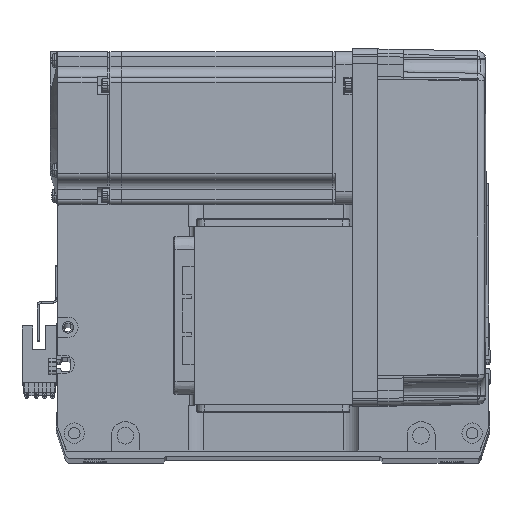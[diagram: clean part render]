
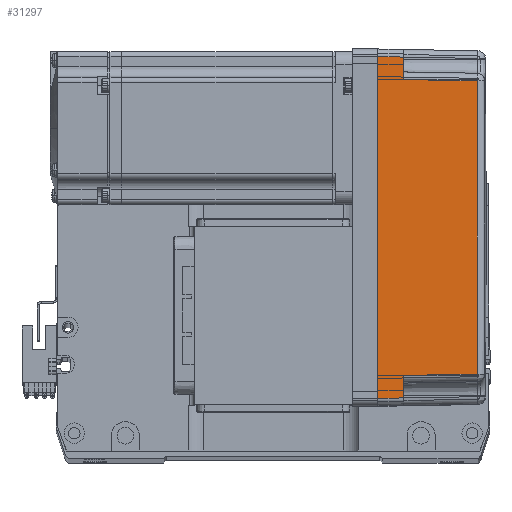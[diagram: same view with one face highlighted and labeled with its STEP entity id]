
A CAD part, top view. The second image highlights one B-rep face of the part: STEP entity #31297.
In plain terms, the highlighted planar face has unit normal (0.018, 0, 1) as drawn and (0, -1, 0.017) by its records, which use the part's own axes.
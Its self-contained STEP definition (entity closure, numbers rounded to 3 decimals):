
#11 = CARTESIAN_POINT ( 'NONE',  ( -57.495, -35.32, 38.985 ) ) ;
#273 = VERTEX_POINT ( 'NONE', #48690 ) ;
#284 = CARTESIAN_POINT ( 'NONE',  ( 58., -35.825, 10. ) ) ;
#1744 = LINE ( 'NONE', #42941, #52781 ) ;
#2312 = CARTESIAN_POINT ( 'NONE',  ( 67., -36., 0. ) ) ;
#3385 = LINE ( 'NONE', #31563, #9486 ) ;
#3584 = CARTESIAN_POINT ( 'NONE',  ( 57.495, -35.32, 38.985 ) ) ;
#5152 = CARTESIAN_POINT ( 'NONE',  ( 70., -36., 0. ) ) ;
#6297 = CARTESIAN_POINT ( 'NONE',  ( -58., -35.825, 10. ) ) ;
#6503 = EDGE_CURVE ( 'NONE', #52192, #23209, #60787, .T. ) ;
#8004 = VERTEX_POINT ( 'NONE', #284 ) ;
#8036 = AXIS2_PLACEMENT_3D ( 'NONE', #5152, #19781, #53860 ) ;
#9055 = VECTOR ( 'NONE', #46364, 1000. ) ;
#9486 = VECTOR ( 'NONE', #60921, 1000. ) ;
#10686 = LINE ( 'NONE', #23405, #60903 ) ;
#13167 = DIRECTION ( 'NONE',  ( -0.017, 0.017, 1. ) ) ;
#13818 = VERTEX_POINT ( 'NONE', #62527 ) ;
#14401 = CARTESIAN_POINT ( 'NONE',  ( 70., -35.825, 10. ) ) ;
#14580 = VERTEX_POINT ( 'NONE', #2312 ) ;
#15917 = EDGE_CURVE ( 'NONE', #57597, #13818, #32597, .T. ) ;
#16612 = EDGE_CURVE ( 'NONE', #47630, #23209, #50704, .T. ) ;
#19679 = LINE ( 'NONE', #26439, #22724 ) ;
#19781 = DIRECTION ( 'NONE',  ( 0., -1., 0.017 ) ) ;
#21298 = EDGE_CURVE ( 'NONE', #8004, #57597, #1744, .T. ) ;
#22724 = VECTOR ( 'NONE', #35601, 1000. ) ;
#23209 = VERTEX_POINT ( 'NONE', #41205 ) ;
#23375 = DIRECTION ( 'NONE',  ( -0.017, 0.017, 1. ) ) ;
#23405 = CARTESIAN_POINT ( 'NONE',  ( 70., -35.825, 10. ) ) ;
#24238 = CARTESIAN_POINT ( 'NONE',  ( 57.495, -35.32, 38.985 ) ) ;
#26439 = CARTESIAN_POINT ( 'NONE',  ( -57.495, -35.32, 38.985 ) ) ;
#27837 = CARTESIAN_POINT ( 'NONE',  ( 67., -36., 0. ) ) ;
#28119 = VECTOR ( 'NONE', #13167, 1000. ) ;
#28363 = ORIENTED_EDGE ( 'NONE', *, *, #35272, .T. ) ;
#29137 = CARTESIAN_POINT ( 'NONE',  ( -19.165, -35.316, 39.181 ) ) ;
#29762 = ORIENTED_EDGE ( 'NONE', *, *, #6503, .F. ) ;
#31297 = ADVANCED_FACE ( 'NONE', ( #47696 ), #39381, .T. ) ;
#31563 = CARTESIAN_POINT ( 'NONE',  ( 0., -36., 0. ) ) ;
#32414 = VECTOR ( 'NONE', #43314, 1000. ) ;
#32597 = B_SPLINE_CURVE_WITH_KNOTS ( 'NONE', 3,
 ( #24238, #57863, #29137, #11 ),
 .UNSPECIFIED., .F., .F.,
 ( 4, 4 ),
 ( 0., 1. ),
 .UNSPECIFIED. ) ;
#32686 = ORIENTED_EDGE ( 'NONE', *, *, #15917, .T. ) ;
#35272 = EDGE_CURVE ( 'NONE', #13818, #47630, #19679, .T. ) ;
#35601 = DIRECTION ( 'NONE',  ( -0.017, -0.017, -1. ) ) ;
#39381 = PLANE ( 'NONE',  #8036 ) ;
#40444 = CARTESIAN_POINT ( 'NONE',  ( -66.959, -35.958, 2.39 ) ) ;
#41205 = CARTESIAN_POINT ( 'NONE',  ( -66.826, -35.825, 10. ) ) ;
#42573 = ORIENTED_EDGE ( 'NONE', *, *, #21298, .T. ) ;
#42941 = CARTESIAN_POINT ( 'NONE',  ( 58., -35.825, 10. ) ) ;
#43186 = DIRECTION ( 'NONE',  ( -1., 0., 0. ) ) ;
#43314 = DIRECTION ( 'NONE',  ( -1., 0., 0. ) ) ;
#43484 = EDGE_LOOP ( 'NONE', ( #53591, #61330, #42573, #32686, #28363, #50714, #29762, #57016 ) ) ;
#45988 = EDGE_CURVE ( 'NONE', #273, #8004, #10686, .T. ) ;
#46105 = CARTESIAN_POINT ( 'NONE',  ( -67., -36., 0. ) ) ;
#46364 = DIRECTION ( 'NONE',  ( 0.017, 0.017, 1. ) ) ;
#47630 = VERTEX_POINT ( 'NONE', #6297 ) ;
#47696 = FACE_OUTER_BOUND ( 'NONE', #43484, .T. ) ;
#47985 = LINE ( 'NONE', #27837, #28119 ) ;
#48690 = CARTESIAN_POINT ( 'NONE',  ( 66.826, -35.825, 10. ) ) ;
#48751 = EDGE_CURVE ( 'NONE', #14580, #52192, #3385, .T. ) ;
#49313 = EDGE_CURVE ( 'NONE', #14580, #273, #47985, .T. ) ;
#50704 = LINE ( 'NONE', #14401, #32414 ) ;
#50714 = ORIENTED_EDGE ( 'NONE', *, *, #16612, .T. ) ;
#52192 = VERTEX_POINT ( 'NONE', #46105 ) ;
#52781 = VECTOR ( 'NONE', #23375, 1000. ) ;
#53591 = ORIENTED_EDGE ( 'NONE', *, *, #49313, .T. ) ;
#53860 = DIRECTION ( 'NONE',  ( 0., -0.017, -1. ) ) ;
#57016 = ORIENTED_EDGE ( 'NONE', *, *, #48751, .F. ) ;
#57597 = VERTEX_POINT ( 'NONE', #3584 ) ;
#57863 = CARTESIAN_POINT ( 'NONE',  ( 19.165, -35.316, 39.181 ) ) ;
#60787 = LINE ( 'NONE', #40444, #9055 ) ;
#60903 = VECTOR ( 'NONE', #43186, 1000. ) ;
#60921 = DIRECTION ( 'NONE',  ( -1., 0., 0. ) ) ;
#61330 = ORIENTED_EDGE ( 'NONE', *, *, #45988, .T. ) ;
#62527 = CARTESIAN_POINT ( 'NONE',  ( -57.495, -35.32, 38.985 ) ) ;
